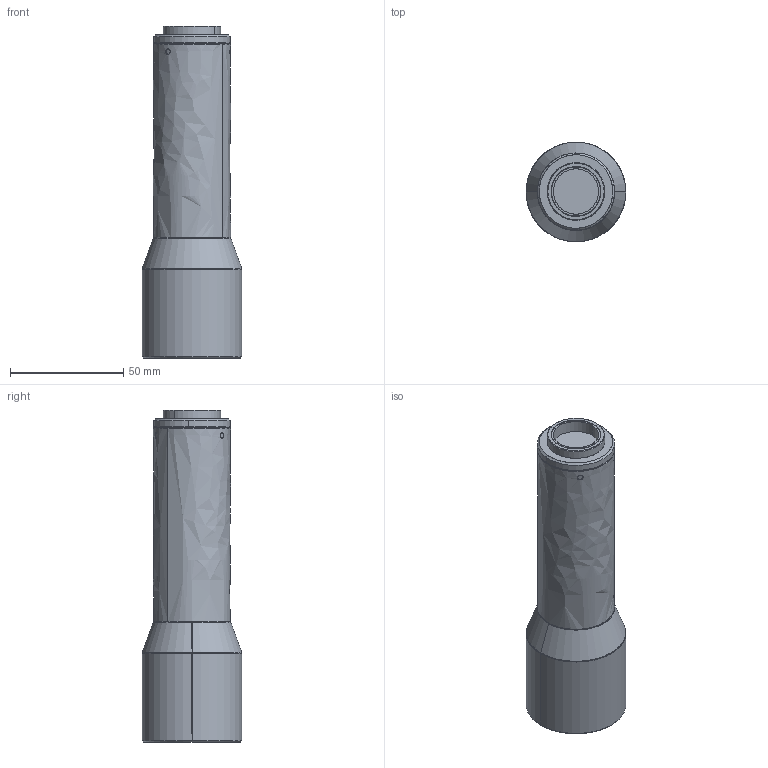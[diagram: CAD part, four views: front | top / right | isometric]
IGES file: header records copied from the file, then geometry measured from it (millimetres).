
Start section: SolidWorks IGES file using analytic representation for surfaces
Global section: file name: E:\liang\光学镜头\WWK\K0810-110系列\WWK08-110-111V3\发客户3D图\WWK08-110-111V3.IGS; native system: SolidWorks 2017; preprocessor: SolidWorks 2017; author: wenru; date: 220927.145936; units: millimetre
Bounding box: 44 x 44 x 146.39 mm (x, y, z)
Surface area: 20273.1 mm2 (no closed solid volume)
Topology: 0 solids, 0 shells, 61 faces, 1332 edges, 1332 vertices
Faces by surface type: revolution 41, bspline 20
